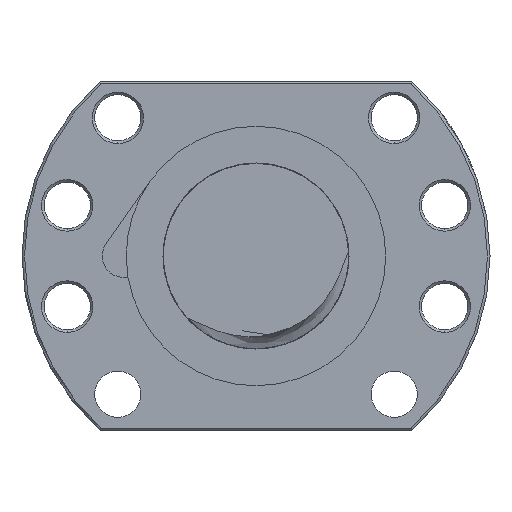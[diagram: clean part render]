
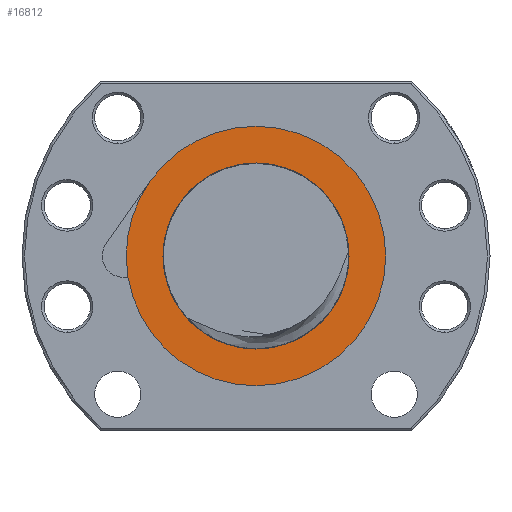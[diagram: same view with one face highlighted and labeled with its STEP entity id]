
A CAD part, left-side view. The second image highlights one B-rep face of the part: STEP entity #16812.
In plain terms, the highlighted planar face has unit normal (-1, 0, 0).
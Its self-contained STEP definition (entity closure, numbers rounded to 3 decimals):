
#11719 = CARTESIAN_POINT ( 'NONE',  ( -212.8, 20.641, 14.5 ) ) ;
#11752 = DIRECTION ( 'NONE',  ( -1., 0., 0. ) ) ;
#11753 = CARTESIAN_POINT ( 'NONE',  ( -212.8, 0., 0. ) ) ;
#11754 = AXIS2_PLACEMENT_3D ( 'NONE', #11753, #11752, #11912 ) ;
#11755 = CIRCLE ( 'NONE', #11754, 25.225 ) ;
#11769 = CARTESIAN_POINT ( 'NONE',  ( -212.8, 0., 18.1 ) ) ;
#11770 = DIRECTION ( 'NONE',  ( 0., 0., 1. ) ) ;
#11771 = DIRECTION ( 'NONE',  ( -1., 0., 0. ) ) ;
#11772 = CARTESIAN_POINT ( 'NONE',  ( -212.8, 0., 0. ) ) ;
#11773 = AXIS2_PLACEMENT_3D ( 'NONE', #11772, #11771, #11770 ) ;
#11774 = CIRCLE ( 'NONE', #11773, 18.1 ) ;
#11867 = CARTESIAN_POINT ( 'NONE',  ( -212.8, 0., -18.1 ) ) ;
#11910 = CARTESIAN_POINT ( 'NONE',  ( -212.8, 0., 25.225 ) ) ;
#11911 = CARTESIAN_POINT ( 'NONE',  ( -212.8, 0., -25.225 ) ) ;
#11912 = DIRECTION ( 'NONE',  ( 0., 0., 1. ) ) ;
#12318 = DIRECTION ( 'NONE',  ( 0., 0., 1. ) ) ;
#12319 = DIRECTION ( 'NONE',  ( -1., 0., 0. ) ) ;
#12320 = CARTESIAN_POINT ( 'NONE',  ( -212.8, 0., 0. ) ) ;
#12321 = AXIS2_PLACEMENT_3D ( 'NONE', #12320, #12319, #12318 ) ;
#12322 = CIRCLE ( 'NONE', #12321, 25.225 ) ;
#12558 = DIRECTION ( 'NONE',  ( 0., 0., 1. ) ) ;
#12559 = DIRECTION ( 'NONE',  ( -1., 0., 0. ) ) ;
#12560 = CARTESIAN_POINT ( 'NONE',  ( -212.8, 0., 0. ) ) ;
#12561 = AXIS2_PLACEMENT_3D ( 'NONE', #12560, #12559, #12558 ) ;
#12562 = CIRCLE ( 'NONE', #12561, 25.225 ) ;
#12563 = DIRECTION ( 'NONE',  ( 0., 0., 1. ) ) ;
#12564 = DIRECTION ( 'NONE',  ( -1., 0., 0. ) ) ;
#12565 = CARTESIAN_POINT ( 'NONE',  ( -212.8, 0., 18.1 ) ) ;
#12566 = AXIS2_PLACEMENT_3D ( 'NONE', #12565, #12564, #12563 ) ;
#12567 = PLANE ( 'NONE',  #12566 ) ;
#12568 = FACE_BOUND ( 'NONE', #16819, .T. ) ;
#12569 = FACE_OUTER_BOUND ( 'NONE', #16813, .T. ) ;
#12570 = DIRECTION ( 'NONE',  ( 0., 0., 1. ) ) ;
#12571 = DIRECTION ( 'NONE',  ( -1., 0., 0. ) ) ;
#12572 = AXIS2_PLACEMENT_3D ( 'NONE', #12578, #12571, #12570 ) ;
#12573 = CIRCLE ( 'NONE', #12572, 18.1 ) ;
#12578 = CARTESIAN_POINT ( 'NONE',  ( -212.8, 0., 0. ) ) ;
#12617 = CARTESIAN_POINT ( 'NONE',  ( -212.8, 24.891, -4.091 ) ) ;
#12618 = DIRECTION ( 'NONE',  ( 0., 0., 1. ) ) ;
#12619 = DIRECTION ( 'NONE',  ( -1., 0., 0. ) ) ;
#12620 = CARTESIAN_POINT ( 'NONE',  ( -212.8, 0., 0. ) ) ;
#12621 = AXIS2_PLACEMENT_3D ( 'NONE', #12620, #12619, #12618 ) ;
#12622 = CIRCLE ( 'NONE', #12621, 25.225 ) ;
#16362 = VERTEX_POINT ( 'NONE', #11867 ) ;
#16364 = EDGE_CURVE ( 'NONE', #16362, #16365, #11774, .T. ) ;
#16365 = VERTEX_POINT ( 'NONE', #11769 ) ;
#16450 = VERTEX_POINT ( 'NONE', #11719 ) ;
#16456 = EDGE_CURVE ( 'NONE', #16457, #16458, #11755, .T. ) ;
#16457 = VERTEX_POINT ( 'NONE', #11911 ) ;
#16458 = VERTEX_POINT ( 'NONE', #11910 ) ;
#16727 = EDGE_CURVE ( 'NONE', #16458, #16450, #12322, .T. ) ;
#16782 = ORIENTED_EDGE ( 'NONE', *, *, #16364, .F. ) ;
#16800 = EDGE_CURVE ( 'NONE', #16801, #16457, #12622, .T. ) ;
#16801 = VERTEX_POINT ( 'NONE', #12617 ) ;
#16811 = EDGE_CURVE ( 'NONE', #16365, #16362, #12573, .T. ) ;
#16812 = ADVANCED_FACE ( 'NONE', ( #12569, #12568 ), #12567, .T. ) ;
#16813 = EDGE_LOOP ( 'NONE', ( #16814, #16816, #16817, #16818 ) ) ;
#16814 = ORIENTED_EDGE ( 'NONE', *, *, #16815, .T. ) ;
#16815 = EDGE_CURVE ( 'NONE', #16450, #16801, #12562, .T. ) ;
#16816 = ORIENTED_EDGE ( 'NONE', *, *, #16800, .T. ) ;
#16817 = ORIENTED_EDGE ( 'NONE', *, *, #16456, .T. ) ;
#16818 = ORIENTED_EDGE ( 'NONE', *, *, #16727, .T. ) ;
#16819 = EDGE_LOOP ( 'NONE', ( #16820, #16782 ) ) ;
#16820 = ORIENTED_EDGE ( 'NONE', *, *, #16811, .F. ) ;
